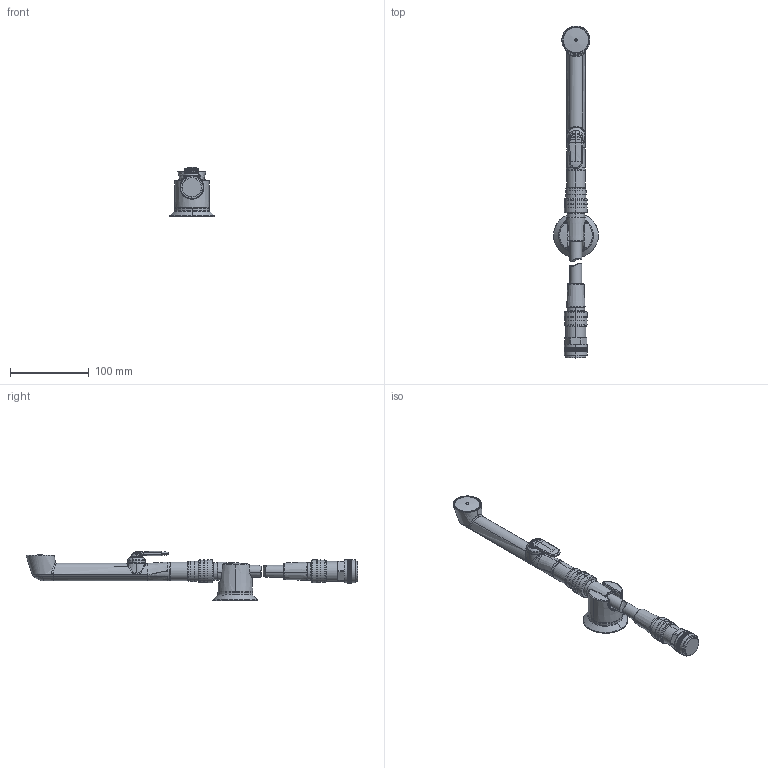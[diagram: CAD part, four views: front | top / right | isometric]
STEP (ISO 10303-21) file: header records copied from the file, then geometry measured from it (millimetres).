
FILE_DESCRIPTION (( 'STEP AP203' ), '1' );
FILE_NAME ('337MZ-11(2024).STEP', '2023-11-06T08:55:20', ( '' ), ( '' ), 'SwSTEP 2.0', 'SolidWorks 2016', '' );
FILE_SCHEMA (( 'CONFIG_CONTROL_DESIGN' ));
Products named in the file (1): 337MZ-11(2024)
Bounding box: 56.69 x 421.07 x 62.26 mm (x, y, z)
Volume: 257177.7 mm3; surface area: 61640.3 mm2
Topology: 13 solids, 13 shells, 2147 faces, 4986 edges, 3254 vertices
Faces by surface type: plane 1237, bspline 526, cylinder 310, cone 44, torus 30
Entity records: 87146 total; most frequent: CARTESIAN_POINT 47563, ORIENTED_EDGE 9968, DIRECTION 6009, EDGE_CURVE 4984, VERTEX_POINT 3254, EDGE_LOOP 2538, AXIS2_PLACEMENT_3D 2470, ADVANCED_FACE 2147
